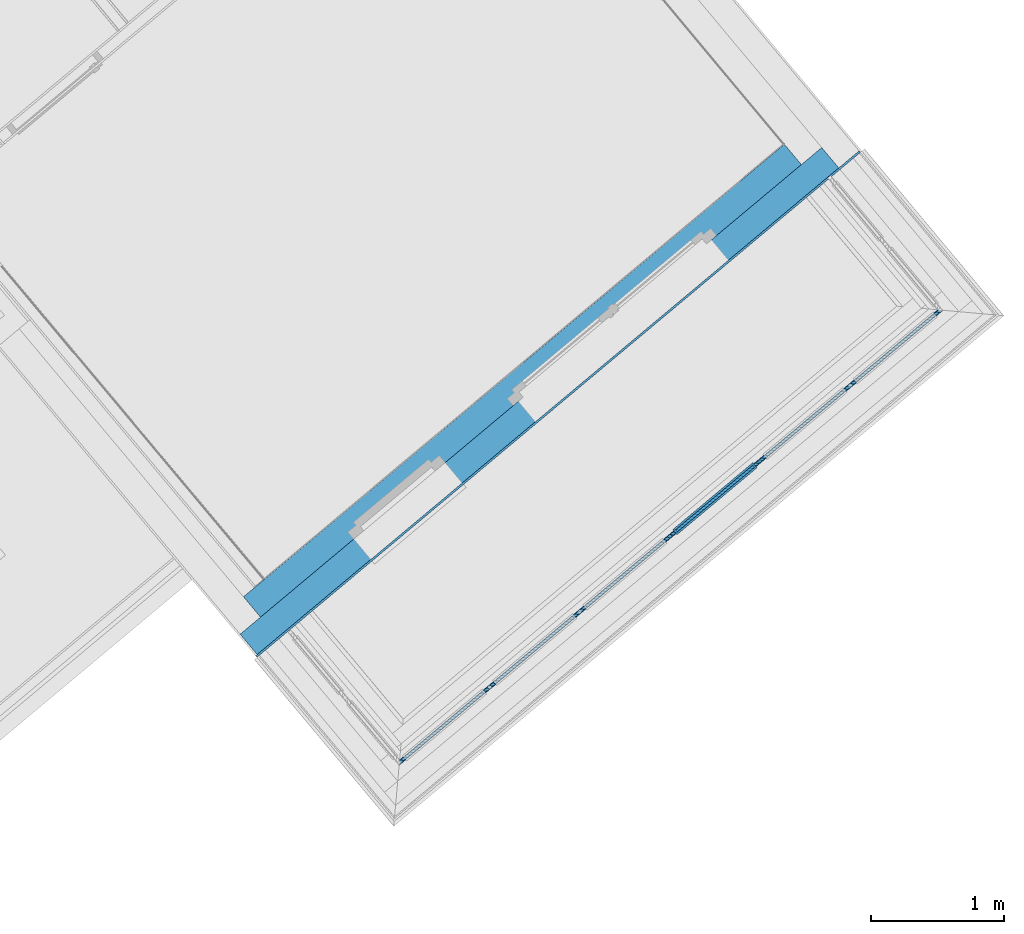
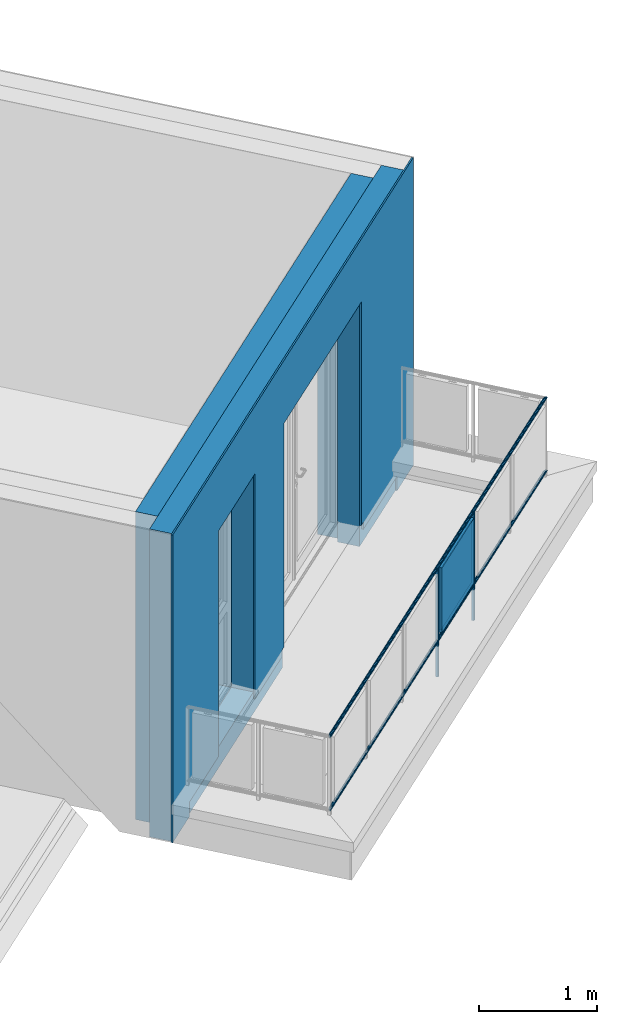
# One storey, part 35 of 50: 9 building element parts, 2 openings, 2 elements without a shape of their own.
"""IFC4 building model written with IfcOpenShell, lengths in metres."""

from ifc_helpers import new_model, entity, si_unit, converted_unit, derived_unit, direction, frame, origin_with_axes, place, context, subcontext, project, spatial, polygons, material, type_object, element, aggregate, save


model = new_model("IFC4")

# Units and contexts
model_context = context("Model", 3, precision=1e-05, world=origin_with_axes(), true_north=direction((0.0, 1.0)))
body_context = subcontext(model_context, "Body", "Model", "MODEL_VIEW")
ifc_project = project(units=[si_unit("LENGTHUNIT", "METRE"), si_unit("AREAUNIT", "SQUARE_METRE"), si_unit("VOLUMEUNIT", "CUBIC_METRE"), converted_unit("PLANEANGLEUNIT", "DEGREE", entity("IfcPlaneAngleMeasure", 0.0174532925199), si_unit("PLANEANGLEUNIT", "RADIAN"), dimensions=[0, 0, 0, 0, 0, 0, 0]), converted_unit("TIMEUNIT", "Year", entity("IfcTimeMeasure", 31556926.0), si_unit("TIMEUNIT", "SECOND"), dimensions=[0, 0, 1, 0, 0, 0, 0]), si_unit("MASSUNIT", "GRAM", prefix="KILO"), si_unit("THERMODYNAMICTEMPERATUREUNIT", "DEGREE_CELSIUS"), si_unit("LUMINOUSINTENSITYUNIT", "LUMEN"), si_unit("ENERGYUNIT", "JOULE", prefix="MEGA"), derived_unit("THERMALCONDUCTANCEUNIT", [(si_unit("POWERUNIT", "WATT"), 1), (si_unit("LENGTHUNIT", "METRE"), -1), (si_unit("THERMODYNAMICTEMPERATUREUNIT", "KELVIN"), -1)]), derived_unit("SPECIFICHEATCAPACITYUNIT", [(si_unit("ENERGYUNIT", "JOULE"), 1), (si_unit("MASSUNIT", "GRAM", prefix="KILO"), -1), (si_unit("THERMODYNAMICTEMPERATUREUNIT", "KELVIN"), -1)]), derived_unit("MASSDENSITYUNIT", [(si_unit("MASSUNIT", "GRAM", prefix="KILO"), 1), (si_unit("VOLUMEUNIT", "CUBIC_METRE"), -1)])], contexts=[model_context])

# Site, building, storey
site_placement = place(None, frame((-0.00153261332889, -0.00661245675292, 0.0), z_axis=(0.0, 0.0, 1.0), x_axis=(1.0, 0.0, 0.0)))
site = spatial("IfcSite", under=ifc_project, at=site_placement, Name="Gelände", CompositionType="ELEMENT")
building_placement = place(site_placement, origin_with_axes())
building = spatial("IfcBuilding", under=site, at=building_placement, Name="Gebäude", CompositionType="ELEMENT")
storey_placement = place(building_placement, frame((0.0, 0.0, 8.66), z_axis=(0.0, 0.0, 1.0), x_axis=(1.0, 0.0, 0.0)))
storey = spatial("IfcBuildingStorey", under=building, at=storey_placement, Name="DG2", CompositionType="ELEMENT", Elevation=8.66)

# Wall, openings, building element parts
wall_type = type_object("IfcWallType", Name="AW EG 420", PredefinedType="NOTDEFINED")
wall_placement = place(storey_placement, frame((12.3645633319, 21.5152808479, 0.0), z_axis=(0.0, 0.0, 1.0), x_axis=(-0.766948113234, -0.641709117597, 0.0)))
wall = element("IfcWall", 1, at=wall_placement, inside=storey, type_object=wall_type, Name="Wand-002", PredefinedType="NOTDEFINED")
opening_1_placement = place(wall_placement, frame((4.36344013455, 0.0, 0.22), z_axis=(0.0, 0.0, 1.0), x_axis=(1.0, 0.0, 0.0)))
element("IfcOpeningElement", 2, at=opening_1_placement, cuts=wall, Name="Fenster-001", context=body_context, identifier="Reference", shape_type="Tessellation", body=[
    polygons([(-0.45, -0.215, 0.0), (-0.45, -0.215, 2.26), (-0.45, 2.71947921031, 2.26), (-0.45, 2.71947921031, 0.0), (-0.45, -3.13947921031, 0.0), (-0.45, -3.13947921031, 2.26), (0.45, -0.215, 2.26), (0.45, 2.71947921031, 2.26), (0.45, -3.13947921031, 2.26), (0.45, 2.71947921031, 0.0), (0.45, -0.215, 0.0), (0.45, -3.13947921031, 0.0)], [[[1, 2, 3, 4]], [[2, 1, 5, 6]], [[7, 8, 3, 2, 6, 9]], [[8, 10, 4, 3]], [[1, 4, 10, 11, 12, 5]], [[6, 5, 12, 9]], [[7, 11, 10, 8]], [[11, 7, 9, 12]]], closed=True),
])
opening_2_placement = place(wall_placement, frame((2.2470864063, 0.0, 0.22), z_axis=(0.0, 0.0, 1.0), x_axis=(1.0, 0.0, 0.0)))
element("IfcOpeningElement", 3, at=opening_2_placement, cuts=wall, Name="Tür-002", context=body_context, identifier="Reference", shape_type="Tessellation", body=[
    polygons([(-0.95, -0.215, -0.22), (-0.95, -0.215, 2.31), (-0.95, 2.71947921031, 2.31), (-0.95, 2.71947921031, -0.22), (0.95, -0.215, 2.31), (-1.0, -0.215, -0.22), (-1.0, -0.215, 2.36), (1.0, -0.215, 2.36), (1.0, -0.215, -0.22), (0.95, -0.215, -0.22), (0.95, 2.71947921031, 2.31), (0.95, 2.71947921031, -0.22), (1.0, -3.13947921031, -0.22), (-1.0, -3.13947921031, -0.22), (-1.0, -3.13947921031, 2.36), (1.0, -3.13947921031, 2.36)], [[[1, 2, 3, 4]], [[5, 2, 1, 6, 7, 8, 9, 10]], [[2, 5, 11, 3]], [[11, 12, 4, 3]], [[1, 4, 12, 10, 9, 13, 14, 6]], [[7, 6, 14, 15]], [[8, 7, 15, 16]], [[9, 8, 16, 13]], [[5, 10, 12, 11]], [[15, 14, 13, 16]]], closed=True),
])
ifc_material_1 = material(Name="Zementputz")
building_element_part_1_placement = place(wall_placement, origin_with_axes())
building_element_part_1 = element("IfcBuildingElementPart", 4, at=building_element_part_1_placement, material=ifc_material_1, Name="Zementputz", PredefinedType="NOTDEFINED", context=body_context, shape_type="Tessellation", body=[
    polygons([(3.1970864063, 0.0, 0.22), (3.1970864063, 0.0, 2.53), (1.2970864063, 0.0, 2.53), (1.2970864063, 0.0, 0.22), (1.2470864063, 0.0, 0.22), (1.2470864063, 0.0, 0.15), (0.415000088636, 0.0, 0.15), (0.415000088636, 0.0, 0.0), (0.0150000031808, 0.0, 0.0), (0.0150000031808, 0.0, 3.18), (5.94359493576, 0.0, 3.18), (5.94359493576, 0.0, 0.0), (5.52859493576, 0.0, 0.0), (5.52859493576, 0.0, 0.15), (4.81344013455, 0.0, 0.15), (4.81344013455, 0.0, 0.22), (4.81344013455, 0.0, 2.48), (3.91344013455, 0.0, 2.48), (3.91344013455, 0.0, 0.22), (3.91344013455, 0.0, 0.15), (3.2470864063, 0.0, 0.15), (3.2470864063, 0.0, 0.22), (3.1970864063, -0.0149999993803, 0.22), (3.1970864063, -0.0149999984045, 2.53), (1.2970864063, -0.0149999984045, 2.53), (1.2970864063, -0.0150000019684, 0.22), (1.2470864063, -0.0150000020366, 0.22), (1.2470864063, -0.0150000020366, 0.15), (0.414990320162, -0.01500000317, 0.15), (0.414990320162, -0.01500000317, 0.0), (0.0149902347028, -0.015, 0.0), (0.0149902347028, -0.015, 3.18), (5.94359493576, -0.015, 3.18), (5.94359493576, -0.015, 0.0), (5.52859493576, -0.0149999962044, 0.0), (5.52859493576, -0.0149999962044, 0.15), (4.81344013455, -0.0149999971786, 0.15), (4.81344013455, -0.0149999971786, 0.22), (4.81344013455, -0.0149999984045, 2.48), (3.91344013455, -0.0149999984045, 2.48), (3.91344013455, -0.0149999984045, 0.22), (3.91344013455, -0.0149999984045, 0.15), (3.2470864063, -0.0149999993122, 0.15), (3.2470864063, -0.0149999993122, 0.22)], [[[1, 2, 3, 4, 5, 6, 7, 8, 9, 10, 11, 12, 13, 14, 15, 16, 17, 18, 19, 20, 21, 22]], [[2, 1, 23, 24]], [[3, 2, 24, 25]], [[4, 3, 25, 26]], [[4, 26, 27, 5]], [[5, 27, 28, 6]], [[29, 7, 6, 28]], [[30, 8, 7, 29]], [[31, 9, 8, 30]], [[10, 9, 31, 32]], [[10, 32, 33, 11]], [[34, 12, 11, 33]], [[12, 34, 35, 13]], [[13, 35, 36, 14]], [[14, 36, 37, 15]], [[16, 15, 37, 38]], [[16, 38, 39, 17]], [[17, 39, 40, 18]], [[18, 40, 41, 19]], [[41, 42, 20, 19]], [[43, 21, 20, 42]], [[44, 22, 21, 43]], [[23, 1, 22, 44]], [[24, 23, 44, 43, 42, 41, 40, 39, 38, 37, 36, 35, 34, 33, 32, 31, 30, 29, 28, 27, 26, 25]]], closed=True),
])
ifc_material_2 = material(Name="EPS 1")
building_element_part_2_placement = place(wall_placement, origin_with_axes())
building_element_part_2 = element("IfcBuildingElementPart", 5, at=building_element_part_2_placement, material=ifc_material_2, Name="EPS 1", PredefinedType="NOTDEFINED", context=body_context, shape_type="Tessellation", body=[
    polygons([(3.1970864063, -0.015, 0.0), (3.1970864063, -0.015, 2.53), (1.2970864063, -0.015, 2.53), (1.2970864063, -0.015, 0.0), (0.214990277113, -0.015, 0.0), (0.214990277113, -0.015, 3.18), (5.92859493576, -0.015, 3.18), (5.92859493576, -0.015, 0.0), (4.81344013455, -0.015, 2.48), (3.91344013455, -0.015, 2.48), (3.91344013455, -0.015, 0.22), (4.81344013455, -0.015, 0.22), (3.1970864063, -0.215, 0.0), (3.1970864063, -0.215, 2.53), (1.2970864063, -0.215, 2.53), (1.2970864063, -0.215, 0.0), (0.21486003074, -0.215, 0.0), (0.21486003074, -0.215, 3.18), (5.92859493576, -0.215, 3.18), (5.92859493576, -0.215, 0.0), (4.81344013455, -0.215, 2.48), (3.91344013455, -0.215, 2.48), (3.91344013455, -0.215, 0.22), (4.81344013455, -0.215, 0.22)], [[[1, 2, 3, 4, 5, 6, 7, 8], [9, 10, 11, 12]], [[2, 1, 13, 14]], [[3, 2, 14, 15]], [[4, 3, 15, 16]], [[4, 16, 17, 5]], [[6, 5, 17, 18]], [[6, 18, 19, 7]], [[20, 8, 7, 19]], [[13, 1, 8, 20]], [[9, 21, 22, 10]], [[10, 22, 23, 11]], [[11, 23, 24, 12]], [[12, 24, 21, 9]], [[14, 13, 20, 19, 18, 17, 16, 15], [23, 22, 21, 24]]], closed=True),
])
ifc_material_3 = material(Name="Stahlbeton Wand")
building_element_part_3_placement = place(wall_placement, origin_with_axes())
building_element_part_3 = element("IfcBuildingElementPart", 6, at=building_element_part_3_placement, material=ifc_material_3, Name="Stahlbeton Wand", PredefinedType="NOTDEFINED", context=body_context, shape_type="Tessellation", body=[
    polygons([(3.2470864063, -0.215, 0.0), (3.2470864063, -0.215, 2.58), (1.2470864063, -0.215, 2.58), (1.2470864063, -0.215, 0.0), (0.414860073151, -0.215, 0.0), (0.414860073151, -0.215, 3.18), (5.72859493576, -0.215, 3.18), (5.72859493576, -0.215, 0.0), (4.81344013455, -0.215, 2.48), (3.91344013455, -0.215, 2.48), (3.91344013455, -0.215, 0.22), (4.81344013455, -0.215, 0.22), (3.2470864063, -0.415, 0.0), (3.2470864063, -0.415, 2.58), (1.2470864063, -0.415, 2.58), (1.2470864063, -0.415, 0.0), (0.414729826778, -0.415, 0.0), (0.414729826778, -0.415, 3.18), (5.72859493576, -0.415, 3.18), (5.72859493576, -0.415, 0.0), (4.81344013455, -0.415, 2.48), (3.91344013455, -0.415, 2.48), (3.91344013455, -0.415, 0.22), (4.81344013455, -0.415, 0.22)], [[[1, 2, 3, 4, 5, 6, 7, 8], [9, 10, 11, 12]], [[2, 1, 13, 14]], [[3, 2, 14, 15]], [[4, 3, 15, 16]], [[4, 16, 17, 5]], [[6, 5, 17, 18]], [[6, 18, 19, 7]], [[20, 8, 7, 19]], [[13, 1, 8, 20]], [[9, 21, 22, 10]], [[10, 22, 23, 11]], [[11, 23, 24, 12]], [[12, 24, 21, 9]], [[14, 13, 20, 19, 18, 17, 16, 15], [23, 22, 21, 24]]], closed=True),
])
aggregate(wall, [building_element_part_1, building_element_part_2, building_element_part_3])

# Space
space_placement = place(storey_placement, frame((8.90864671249, 17.2360299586, 0.22), z_axis=(0.0, 0.0, 1.0), x_axis=(0.766948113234, 0.641709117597, 0.0)))
space = spatial("IfcSpace", under=storey, at=space_placement, CompositionType="ELEMENT", PredefinedType="NOTDEFINED")

# Railing, building element parts
railing_type = type_object("IfcRailingType", Name="Geländerart", PredefinedType="NOTDEFINED")
railing_placement = place(space_placement, frame((-0.182063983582, 1.04564583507, 0.16), z_axis=(0.0, 0.0, 1.0), x_axis=(0.766948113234, -0.641709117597, 0.0)))
railing = element("IfcRailing", 7, at=railing_placement, inside=space, type_object=railing_type, Name="Geländer - 001", PredefinedType="NOTDEFINED")
ifc_material_4 = material(Name="Aluminium")
building_element_part_4_placement = place(railing_placement, origin_with_axes())
building_element_part_4 = element("IfcBuildingElementPart", 8, at=building_element_part_4_placement, material=ifc_material_4, Name="Aluminium", PredefinedType="NOTDEFINED", context=body_context, shape_type="Tessellation", body=[
    polygons([(0.783936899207, -0.991475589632, 0.825), (0.783908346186, -0.991796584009, 0.827604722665), (4.83553217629, 2.39759944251, 0.827604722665), (4.83521161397, 2.39762838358, 0.825), (0.783908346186, -0.991796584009, 0.822395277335), (0.783823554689, -0.992749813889, 0.81986969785), (0.783685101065, -0.994306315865, 0.8175), (0.783497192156, -0.99641879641, 0.815358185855), (0.78326553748, -0.999023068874, 0.813509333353), (0.782997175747, -1.00204000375, 0.812009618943), (0.782700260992, -1.00537793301, 0.810904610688), (0.782383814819, -1.00893543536, 0.810227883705), (0.782057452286, -1.01260441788, 0.81), (0.781731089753, -1.0162734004, 0.810227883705), (0.781414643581, -1.01983090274, 0.810904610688), (0.781117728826, -1.023168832, 0.812009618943), (0.780849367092, -1.02618576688, 0.813509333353), (0.780617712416, -1.02879003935, 0.815358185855), (0.780429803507, -1.03090251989, 0.8175), (0.780291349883, -1.03245902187, 0.81986969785), (0.780206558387, -1.03341225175, 0.822395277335), (0.780178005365, -1.03373324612, 0.825), (0.780206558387, -1.03341225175, 0.827604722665), (0.780291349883, -1.03245902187, 0.83013030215), (0.780429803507, -1.03090251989, 0.8325), (0.780617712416, -1.02879003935, 0.834641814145), (0.780849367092, -1.02618576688, 0.836490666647), (0.781117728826, -1.023168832, 0.837990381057), (0.781414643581, -1.01983090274, 0.839095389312), (0.781731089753, -1.0162734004, 0.839772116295), (0.782057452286, -1.01260441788, 0.84), (0.782383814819, -1.00893543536, 0.839772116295), (0.782700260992, -1.00537793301, 0.839095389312), (0.782997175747, -1.00204000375, 0.837990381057), (0.78326553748, -0.999023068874, 0.836490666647), (0.783497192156, -0.99641879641, 0.834641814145), (0.783685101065, -0.994306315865, 0.8325), (0.783823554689, -0.992749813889, 0.83013030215), (4.83648412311, 2.39751349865, 0.83013030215), (4.83803853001, 2.39737316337, 0.8325), (4.84014816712, 2.39718270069, 0.834641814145), (4.84274893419, 2.3969478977, 0.836490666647), (4.84576180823, 2.3966758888, 0.837990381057), (4.84909524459, 2.39637493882, 0.839095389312), (4.85264795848, 2.39605419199, 0.839772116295), (4.85631200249, 2.39572339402, 0.84), (4.85997604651, 2.39539259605, 0.839772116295), (4.8635287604, 2.39507184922, 0.839095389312), (4.86686219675, 2.39477089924, 0.837990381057), (4.86987507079, 2.39449889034, 0.836490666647), (4.87247583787, 2.39426408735, 0.834641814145), (4.87458547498, 2.39407362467, 0.8325), (4.87613988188, 2.39393328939, 0.83013030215), (4.8770918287, 2.39384734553, 0.827604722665), (4.87741239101, 2.39381840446, 0.825), (4.8770918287, 2.39384734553, 0.822395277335), (4.87613988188, 2.39393328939, 0.81986969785), (4.87458547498, 2.39407362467, 0.8175), (4.87247583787, 2.39426408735, 0.815358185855), (4.86987507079, 2.39449889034, 0.813509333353), (4.86686219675, 2.39477089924, 0.812009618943), (4.8635287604, 2.39507184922, 0.810904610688), (4.85997604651, 2.39539259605, 0.810227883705), (4.85631200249, 2.39572339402, 0.81), (4.85264795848, 2.39605419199, 0.810227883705), (4.84909524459, 2.39637493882, 0.810904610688), (4.84576180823, 2.3966758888, 0.812009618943), (4.84274893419, 2.3969478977, 0.813509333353), (4.84014816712, 2.39718270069, 0.815358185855), (4.83803853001, 2.39737316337, 0.8175), (4.83648412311, 2.39751349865, 0.81986969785), (4.83553217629, 2.39759944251, 0.822395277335)], [[[1, 2, 3, 4]], [[1, 5, 6, 7, 8, 9, 10, 11, 12, 13, 14, 15, 16, 17, 18, 19, 20, 21, 22, 23, 24, 25, 26, 27, 28, 29, 30, 31, 32, 33, 34, 35, 36, 37, 38, 2]], [[2, 38, 39, 3]], [[4, 3, 39, 40, 41, 42, 43, 44, 45, 46, 47, 48, 49, 50, 51, 52, 53, 54, 55, 56, 57, 58, 59, 60, 61, 62, 63, 64, 65, 66, 67, 68, 69, 70, 71, 72]], [[5, 1, 4, 72]], [[6, 5, 72, 71]], [[7, 6, 71, 70]], [[8, 7, 70, 69]], [[9, 8, 69, 68]], [[10, 9, 68, 67]], [[11, 10, 67, 66]], [[12, 11, 66, 65]], [[13, 12, 65, 64]], [[14, 13, 64, 63]], [[15, 14, 63, 62]], [[16, 15, 62, 61]], [[17, 16, 61, 60]], [[18, 17, 60, 59]], [[19, 18, 59, 58]], [[20, 19, 58, 57]], [[21, 20, 57, 56]], [[22, 21, 56, 55]], [[23, 22, 55, 54]], [[24, 23, 54, 53]], [[25, 24, 53, 52]], [[26, 25, 52, 51]], [[27, 26, 51, 50]], [[28, 27, 50, 49]], [[29, 28, 49, 48]], [[30, 29, 48, 47]], [[31, 30, 47, 46]], [[32, 31, 46, 45]], [[33, 32, 45, 44]], [[34, 33, 44, 43]], [[35, 34, 43, 42]], [[36, 35, 42, 41]], [[37, 36, 41, 40]], [[38, 37, 40, 39]]], closed=True),
])
building_element_part_5_placement = place(railing_placement, origin_with_axes())
building_element_part_5 = element("IfcBuildingElementPart", 9, at=building_element_part_5_placement, material=ifc_material_4, Name="Aluminium", PredefinedType="NOTDEFINED", context=body_context, shape_type="Tessellation", body=[
    polygons([(0.783936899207, -0.991475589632, 0.07), (0.783908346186, -0.991796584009, 0.072604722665), (4.83553217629, 2.39759944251, 0.072604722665), (4.83521161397, 2.39762838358, 0.07), (0.783908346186, -0.991796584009, 0.067395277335), (0.783823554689, -0.992749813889, 0.0648696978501), (0.783685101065, -0.994306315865, 0.0625), (0.783497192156, -0.99641879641, 0.0603581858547), (0.78326553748, -0.999023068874, 0.0585093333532), (0.782997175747, -1.00204000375, 0.0570096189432), (0.782700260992, -1.00537793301, 0.0559046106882), (0.782383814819, -1.00893543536, 0.0552278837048), (0.782057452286, -1.01260441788, 0.055), (0.781731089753, -1.0162734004, 0.0552278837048), (0.781414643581, -1.01983090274, 0.0559046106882), (0.781117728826, -1.023168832, 0.0570096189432), (0.780849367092, -1.02618576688, 0.0585093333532), (0.780617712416, -1.02879003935, 0.0603581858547), (0.780429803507, -1.03090251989, 0.0625), (0.780291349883, -1.03245902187, 0.0648696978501), (0.780206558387, -1.03341225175, 0.067395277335), (0.780178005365, -1.03373324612, 0.07), (0.780206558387, -1.03341225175, 0.072604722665), (0.780291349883, -1.03245902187, 0.0751303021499), (0.780429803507, -1.03090251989, 0.0775), (0.780617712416, -1.02879003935, 0.0796418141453), (0.780849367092, -1.02618576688, 0.0814906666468), (0.781117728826, -1.023168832, 0.0829903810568), (0.781414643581, -1.01983090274, 0.0840953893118), (0.781731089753, -1.0162734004, 0.0847721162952), (0.782057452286, -1.01260441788, 0.085), (0.782383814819, -1.00893543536, 0.0847721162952), (0.782700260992, -1.00537793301, 0.0840953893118), (0.782997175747, -1.00204000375, 0.0829903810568), (0.78326553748, -0.999023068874, 0.0814906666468), (0.783497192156, -0.99641879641, 0.0796418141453), (0.783685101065, -0.994306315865, 0.0775), (0.783823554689, -0.992749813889, 0.0751303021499), (4.83648412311, 2.39751349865, 0.0751303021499), (4.83803853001, 2.39737316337, 0.0775), (4.84014816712, 2.39718270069, 0.0796418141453), (4.84274893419, 2.3969478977, 0.0814906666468), (4.84576180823, 2.3966758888, 0.0829903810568), (4.84909524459, 2.39637493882, 0.0840953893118), (4.85264795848, 2.39605419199, 0.0847721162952), (4.85631200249, 2.39572339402, 0.085), (4.85997604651, 2.39539259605, 0.0847721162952), (4.8635287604, 2.39507184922, 0.0840953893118), (4.86686219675, 2.39477089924, 0.0829903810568), (4.86987507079, 2.39449889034, 0.0814906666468), (4.87247583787, 2.39426408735, 0.0796418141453), (4.87458547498, 2.39407362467, 0.0775), (4.87613988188, 2.39393328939, 0.0751303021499), (4.8770918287, 2.39384734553, 0.072604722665), (4.87741239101, 2.39381840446, 0.07), (4.8770918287, 2.39384734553, 0.067395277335), (4.87613988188, 2.39393328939, 0.0648696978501), (4.87458547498, 2.39407362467, 0.0625), (4.87247583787, 2.39426408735, 0.0603581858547), (4.86987507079, 2.39449889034, 0.0585093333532), (4.86686219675, 2.39477089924, 0.0570096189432), (4.8635287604, 2.39507184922, 0.0559046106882), (4.85997604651, 2.39539259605, 0.0552278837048), (4.85631200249, 2.39572339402, 0.055), (4.85264795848, 2.39605419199, 0.0552278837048), (4.84909524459, 2.39637493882, 0.0559046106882), (4.84576180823, 2.3966758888, 0.0570096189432), (4.84274893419, 2.3969478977, 0.0585093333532), (4.84014816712, 2.39718270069, 0.0603581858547), (4.83803853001, 2.39737316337, 0.0625), (4.83648412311, 2.39751349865, 0.0648696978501), (4.83553217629, 2.39759944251, 0.067395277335)], [[[1, 2, 3, 4]], [[1, 5, 6, 7, 8, 9, 10, 11, 12, 13, 14, 15, 16, 17, 18, 19, 20, 21, 22, 23, 24, 25, 26, 27, 28, 29, 30, 31, 32, 33, 34, 35, 36, 37, 38, 2]], [[2, 38, 39, 3]], [[4, 3, 39, 40, 41, 42, 43, 44, 45, 46, 47, 48, 49, 50, 51, 52, 53, 54, 55, 56, 57, 58, 59, 60, 61, 62, 63, 64, 65, 66, 67, 68, 69, 70, 71, 72]], [[5, 1, 4, 72]], [[6, 5, 72, 71]], [[7, 6, 71, 70]], [[8, 7, 70, 69]], [[9, 8, 69, 68]], [[10, 9, 68, 67]], [[11, 10, 67, 66]], [[12, 11, 66, 65]], [[13, 12, 65, 64]], [[14, 13, 64, 63]], [[15, 14, 63, 62]], [[16, 15, 62, 61]], [[17, 16, 61, 60]], [[18, 17, 60, 59]], [[19, 18, 59, 58]], [[20, 19, 58, 57]], [[21, 20, 57, 56]], [[22, 21, 56, 55]], [[23, 22, 55, 54]], [[24, 23, 54, 53]], [[25, 24, 53, 52]], [[26, 25, 52, 51]], [[27, 26, 51, 50]], [[28, 27, 50, 49]], [[29, 28, 49, 48]], [[30, 29, 48, 47]], [[31, 30, 47, 46]], [[32, 31, 46, 45]], [[33, 32, 45, 44]], [[34, 33, 44, 43]], [[35, 34, 43, 42]], [[36, 35, 42, 41]], [[37, 36, 41, 40]], [[38, 37, 40, 39]]], closed=True),
])
building_element_part_6_placement = place(railing_placement, origin_with_axes())
building_element_part_6 = element("IfcBuildingElementPart", 10, at=building_element_part_6_placement, material=ifc_material_4, Name="Aluminium", PredefinedType="NOTDEFINED", context=body_context, shape_type="Tessellation", body=[
    polygons([(2.83679280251, 0.689992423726, -0.3), (2.82075179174, 0.709167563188, -0.3), (2.82075179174, 0.709167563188, 0.82), (2.83679280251, 0.689992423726, 0.82), (2.81761766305, 0.673951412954, -0.3), (2.80157665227, 0.693126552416, -0.3), (2.80157665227, 0.693126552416, 0.82), (2.81761766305, 0.673951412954, 0.82)], [[[1, 2, 3, 4]], [[1, 5, 6, 2]], [[2, 6, 7, 3]], [[4, 3, 7, 8]], [[5, 1, 4, 8]], [[6, 5, 8, 7]]], closed=True),
])
ifc_material_5 = material(Name="Profilit")
building_element_part_7_placement = place(railing_placement, origin_with_axes())
building_element_part_7 = element("IfcBuildingElementPart", 11, at=building_element_part_7_placement, material=ifc_material_5, Name="Profilit", PredefinedType="NOTDEFINED", context=body_context, shape_type="Tessellation", body=[
    polygons([(3.44195538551, 1.22557755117, 0.135), (2.86262368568, 0.740936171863, 0.135), (2.86262368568, 0.740936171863, 0.775), (3.44195538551, 1.22557755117, 0.775), (2.8754564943, 0.725596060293, 0.135), (3.45478819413, 1.21023743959, 0.135), (2.8754564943, 0.725596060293, 0.775), (3.45478819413, 1.21023743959, 0.775)], [[[1, 2, 3, 4]], [[5, 2, 1, 6]], [[7, 3, 2, 5]], [[4, 3, 7, 8]], [[1, 4, 8, 6]], [[7, 5, 6, 8]]], closed=True),
])
building_element_part_8_placement = place(railing_placement, origin_with_axes())
building_element_part_8 = element("IfcBuildingElementPart", 12, at=building_element_part_8_placement, material=ifc_material_4, Name="Aluminium", PredefinedType="NOTDEFINED", context=body_context, shape_type="Tessellation", body=[
    polygons([(2.93263146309, 0.789723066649, 0.12), (2.98632185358, 0.834637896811, 0.12), (2.98632185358, 0.834637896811, 0.095), (2.93263146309, 0.789723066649, 0.095), (2.93583966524, 0.785888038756, 0.12), (2.98953005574, 0.830802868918, 0.12), (2.98953005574, 0.830802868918, 0.095), (2.93583966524, 0.785888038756, 0.095)], [[[1, 2, 3, 4]], [[5, 6, 2, 1]], [[2, 6, 7, 3]], [[4, 3, 7, 8]], [[1, 4, 8, 5]], [[8, 7, 6, 5]]], closed=True),
    polygons([(3.32788182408, 1.12037074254, 0.12), (3.38157221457, 1.1652855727, 0.12), (3.38157221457, 1.1652855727, 0.095), (3.32788182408, 1.12037074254, 0.095), (3.33109002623, 1.11653571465, 0.12), (3.38478041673, 1.16145054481, 0.12), (3.38478041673, 1.16145054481, 0.095), (3.33109002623, 1.11653571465, 0.095)], [[[1, 2, 3, 4]], [[5, 6, 2, 1]], [[2, 6, 7, 3]], [[4, 3, 7, 8]], [[1, 4, 8, 5]], [[8, 7, 6, 5]]], closed=True),
    polygons([(3.38157221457, 1.1652855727, 0.79), (3.32788182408, 1.12037074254, 0.79), (3.32788182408, 1.12037074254, 0.795), (3.38157221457, 1.1652855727, 0.795), (3.38478041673, 1.16145054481, 0.79), (3.33109002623, 1.11653571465, 0.79), (3.33109002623, 1.11653571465, 0.795), (3.38478041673, 1.16145054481, 0.795)], [[[1, 2, 3, 4]], [[5, 6, 2, 1]], [[2, 6, 7, 3]], [[4, 3, 7, 8]], [[1, 4, 8, 5]], [[8, 7, 6, 5]]], closed=True),
    polygons([(2.98632185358, 0.834637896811, 0.79), (2.93263146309, 0.789723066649, 0.79), (2.93263146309, 0.789723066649, 0.795), (2.98632185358, 0.834637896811, 0.795), (2.98953005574, 0.830802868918, 0.79), (2.93583966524, 0.785888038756, 0.79), (2.93583966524, 0.785888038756, 0.795), (2.98953005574, 0.830802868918, 0.795)], [[[1, 2, 3, 4]], [[5, 6, 2, 1]], [[2, 6, 7, 3]], [[4, 3, 7, 8]], [[1, 4, 8, 5]], [[8, 7, 6, 5]]], closed=True),
    polygons([(2.87357601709, 0.704466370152, 0.12), (2.84149399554, 0.742816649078, 0.12), (3.44383586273, 1.24670724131, 0.12), (3.47591788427, 1.20835696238, 0.12), (2.88891612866, 0.71729917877, 0.14), (2.87929152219, 0.728804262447, 0.14), (2.8754564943, 0.725596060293, 0.135), (2.86262368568, 0.740936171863, 0.135), (2.86645871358, 0.744144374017, 0.14), (2.85683410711, 0.755649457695, 0.14), (3.42849575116, 1.23387443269, 0.14), (3.42849575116, 1.23387443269, 0.77), (2.85683410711, 0.755649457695, 0.77), (2.85683410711, 0.755649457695, 0.14), (2.84149399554, 0.742816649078, 0.12), (2.84149399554, 0.742816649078, 0.79), (3.44383586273, 1.24670724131, 0.79), (3.47591788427, 1.20835696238, 0.79), (2.87357601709, 0.704466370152, 0.79), (2.87357601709, 0.704466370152, 0.12), (2.88891612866, 0.71729917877, 0.14), (2.88891612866, 0.71729917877, 0.77), (3.4605777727, 1.19552415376, 0.77), (3.4605777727, 1.19552415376, 0.14), (3.45095316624, 1.20702923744, 0.14), (3.45095316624, 1.20702923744, 0.77), (2.87929152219, 0.728804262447, 0.77), (2.87929152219, 0.728804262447, 0.14), (2.8754564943, 0.725596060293, 0.135), (2.8754564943, 0.725596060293, 0.775), (3.45478819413, 1.21023743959, 0.775), (3.45478819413, 1.21023743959, 0.135), (3.44195538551, 1.22557755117, 0.135), (3.44195538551, 1.22557755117, 0.775), (2.86262368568, 0.740936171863, 0.775), (2.86262368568, 0.740936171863, 0.135), (2.86645871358, 0.744144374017, 0.14), (2.86645871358, 0.744144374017, 0.77), (3.43812035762, 1.22236934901, 0.77), (3.43812035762, 1.22236934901, 0.14)], [[[1, 2, 3, 4]], [[1, 5, 6, 7, 8, 9, 10, 2]], [[2, 10, 11, 12, 13, 14, 15, 16, 17, 3]], [[4, 3, 17, 18]], [[5, 1, 4, 18, 19, 20, 21, 22, 23, 24]], [[6, 5, 24, 25]], [[7, 6, 25, 26, 27, 28, 29, 30, 31, 32]], [[8, 7, 32, 33]], [[9, 8, 33, 34, 35, 36, 37, 38, 39, 40]], [[10, 9, 40, 11]], [[11, 40, 39, 12]], [[12, 39, 38, 13]], [[13, 38, 37, 14]], [[20, 15, 14, 37, 36, 29, 28, 21]], [[19, 16, 15, 20]], [[18, 17, 16, 19]], [[27, 22, 21, 28]], [[26, 23, 22, 27]], [[25, 24, 23, 26]], [[35, 30, 29, 36]], [[34, 31, 30, 35]], [[33, 32, 31, 34]]], closed=True),
])
building_element_part_9_placement = place(railing_placement, origin_with_axes())
building_element_part_9 = element("IfcBuildingElementPart", 13, at=building_element_part_9_placement, material=ifc_material_4, Name="Aluminium", PredefinedType="NOTDEFINED", context=body_context, shape_type="Tessellation", body=[
    polygons([(3.51583522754, 1.25804705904, -0.3), (3.49979421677, 1.2772221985, -0.3), (3.49979421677, 1.2772221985, 0.82), (3.51583522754, 1.25804705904, 0.82), (3.49666008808, 1.24200604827, -0.3), (3.48061907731, 1.26118118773, -0.3), (3.48061907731, 1.26118118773, 0.82), (3.49666008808, 1.24200604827, 0.82)], [[[1, 2, 3, 4]], [[1, 5, 6, 2]], [[2, 6, 7, 3]], [[4, 3, 7, 8]], [[5, 1, 4, 8]], [[6, 5, 8, 7]]], closed=True),
])
aggregate(railing, [building_element_part_4, building_element_part_5, building_element_part_6, building_element_part_7, building_element_part_8, building_element_part_9])

save(model, "model.ifc")
